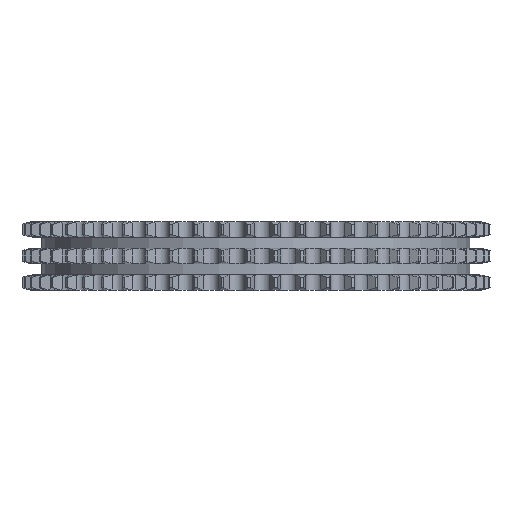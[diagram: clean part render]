
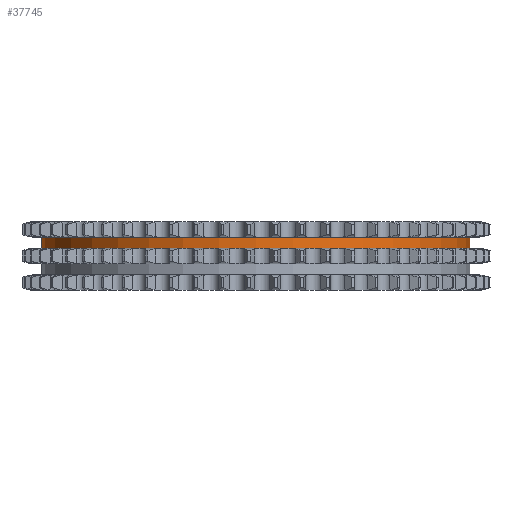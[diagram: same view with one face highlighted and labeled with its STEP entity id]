
A CAD part, left-side view. The second image highlights one B-rep face of the part: STEP entity #37745.
In plain terms, the highlighted cylindrical face has radius 155.845 mm (diameter 311.691 mm), a partial arc.
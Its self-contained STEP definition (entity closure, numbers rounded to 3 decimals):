
#6670=DIRECTION('',(0.,0.,-1.));
#6671=VECTOR('',#6670,8.25);
#6672=CARTESIAN_POINT('',(0.,155.845,13.8));
#6673=LINE('',#6672,#6671);
#6677=CARTESIAN_POINT('',(0.,0.,13.8));
#6678=DIRECTION('',(0.,0.,1.));
#6679=DIRECTION('',(0.,1.,0.));
#6680=AXIS2_PLACEMENT_3D('',#6677,#6678,#6679);
#6685=DIRECTION('',(0.,0.,-1.));
#6686=VECTOR('',#6685,8.25);
#6687=CARTESIAN_POINT('',(0.,-155.845,13.8));
#6688=LINE('',#6687,#6686);
#6692=CARTESIAN_POINT('',(0.,0.,5.55));
#6693=DIRECTION('',(0.,0.,1.));
#6694=DIRECTION('',(0.,1.,0.));
#6695=AXIS2_PLACEMENT_3D('',#6692,#6693,#6694);
#30220=CARTESIAN_POINT('',(0.,155.845,13.8));
#30221=CARTESIAN_POINT('',(0.,155.845,5.55));
#30222=VERTEX_POINT('',#30220);
#30223=VERTEX_POINT('',#30221);
#30224=CARTESIAN_POINT('',(0.,-155.845,13.8));
#30225=CARTESIAN_POINT('',(0.,-155.845,5.55));
#30226=VERTEX_POINT('',#30224);
#30227=VERTEX_POINT('',#30225);
#37733=CARTESIAN_POINT('',(0.,0.,15.18));
#37734=DIRECTION('',(0.,0.,-1.));
#37735=DIRECTION('',(0.,-1.,0.));
#37736=AXIS2_PLACEMENT_3D('',#37733,#37734,#37735);
#37737=CYLINDRICAL_SURFACE('',#37736,155.845);
#37738=ORIENTED_EDGE('',*,*,#37723,.F.);
#37739=ORIENTED_EDGE('',*,*,#37713,.T.);
#37740=ORIENTED_EDGE('',*,*,#37727,.T.);
#37742=ORIENTED_EDGE('',*,*,#37741,.F.);
#37743=EDGE_LOOP('',(#37738,#37739,#37740,#37742));
#37744=FACE_OUTER_BOUND('',#37743,.F.);
#37745=ADVANCED_FACE('',(#37744),#37737,.T.);
#6681=CIRCLE('',#6680,155.845);
#6696=CIRCLE('',#6695,155.845);
#37713=EDGE_CURVE('',#30222,#30226,#6681,.T.);
#37723=EDGE_CURVE('',#30222,#30223,#6673,.T.);
#37727=EDGE_CURVE('',#30226,#30227,#6688,.T.);
#37741=EDGE_CURVE('',#30223,#30227,#6696,.T.);
